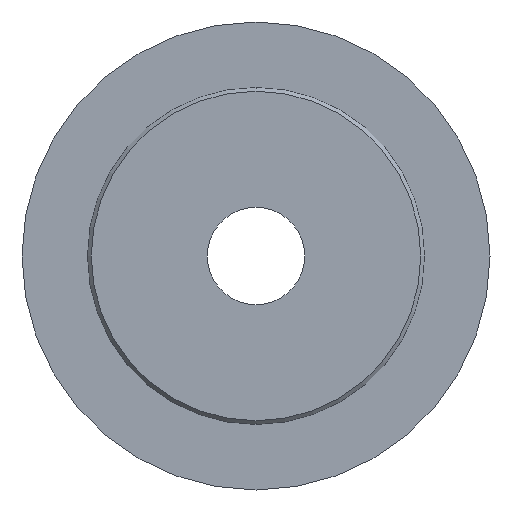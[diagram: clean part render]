
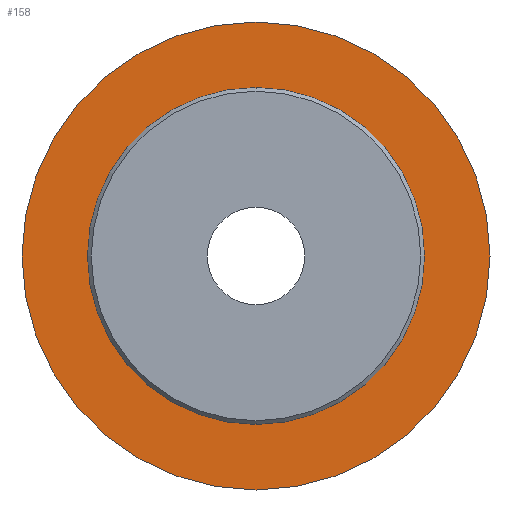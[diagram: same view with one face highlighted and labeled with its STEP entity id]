
A CAD part, front view. The second image highlights one B-rep face of the part: STEP entity #158.
In plain terms, the highlighted planar face has unit normal (0, -1, 0).
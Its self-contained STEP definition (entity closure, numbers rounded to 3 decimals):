
#30 = AXIS2_PLACEMENT_3D ( 'NONE', #319, #385, #126 ) ;
#33 = CARTESIAN_POINT ( 'NONE',  ( 0., 3., 62.5 ) ) ;
#36 = CARTESIAN_POINT ( 'NONE',  ( 0., 3., 0. ) ) ;
#43 = EDGE_CURVE ( 'NONE', #142, #281, #302, .T. ) ;
#46 = EDGE_LOOP ( 'NONE', ( #141, #317 ) ) ;
#50 = VERTEX_POINT ( 'NONE', #128 ) ;
#66 = EDGE_CURVE ( 'NONE', #397, #50, #369, .T. ) ;
#75 = DIRECTION ( 'NONE',  ( 0., 0., -1. ) ) ;
#104 = EDGE_LOOP ( 'NONE', ( #208, #166 ) ) ;
#105 = AXIS2_PLACEMENT_3D ( 'NONE', #182, #409, #255 ) ;
#126 = DIRECTION ( 'NONE',  ( 0., 0., -1. ) ) ;
#128 = CARTESIAN_POINT ( 'NONE',  ( 0., 3., -45. ) ) ;
#140 = CIRCLE ( 'NONE', #389, 45. ) ;
#141 = ORIENTED_EDGE ( 'NONE', *, *, #415, .F. ) ;
#142 = VERTEX_POINT ( 'NONE', #33 ) ;
#144 = DIRECTION ( 'NONE',  ( 0., -1., 0. ) ) ;
#158 = ADVANCED_FACE ( 'NONE', ( #408, #342 ), #363, .F. ) ;
#166 = ORIENTED_EDGE ( 'NONE', *, *, #43, .T. ) ;
#182 = CARTESIAN_POINT ( 'NONE',  ( 0., 3., 0. ) ) ;
#194 = DIRECTION ( 'NONE',  ( 0., 0., 1. ) ) ;
#204 = CARTESIAN_POINT ( 'NONE',  ( 0., 3., -62.5 ) ) ;
#208 = ORIENTED_EDGE ( 'NONE', *, *, #338, .T. ) ;
#229 = CARTESIAN_POINT ( 'NONE',  ( -45., 3., 0. ) ) ;
#255 = DIRECTION ( 'NONE',  ( 0., 0., -1. ) ) ;
#260 = AXIS2_PLACEMENT_3D ( 'NONE', #340, #144, #403 ) ;
#263 = DIRECTION ( 'NONE',  ( 0., 1., 0. ) ) ;
#279 = DIRECTION ( 'NONE',  ( 0., -1., 0. ) ) ;
#281 = VERTEX_POINT ( 'NONE', #204 ) ;
#302 = CIRCLE ( 'NONE', #30, 62.5 ) ;
#309 = AXIS2_PLACEMENT_3D ( 'NONE', #229, #263, #194 ) ;
#317 = ORIENTED_EDGE ( 'NONE', *, *, #66, .F. ) ;
#319 = CARTESIAN_POINT ( 'NONE',  ( 0., 3., 0. ) ) ;
#338 = EDGE_CURVE ( 'NONE', #281, #142, #412, .T. ) ;
#340 = CARTESIAN_POINT ( 'NONE',  ( 0., 3., 0. ) ) ;
#342 = FACE_OUTER_BOUND ( 'NONE', #104, .T. ) ;
#344 = CARTESIAN_POINT ( 'NONE',  ( 0., 3., 45. ) ) ;
#363 = PLANE ( 'NONE',  #309 ) ;
#369 = CIRCLE ( 'NONE', #105, 45. ) ;
#385 = DIRECTION ( 'NONE',  ( 0., -1., 0. ) ) ;
#389 = AXIS2_PLACEMENT_3D ( 'NONE', #36, #279, #75 ) ;
#397 = VERTEX_POINT ( 'NONE', #344 ) ;
#403 = DIRECTION ( 'NONE',  ( 0., 0., -1. ) ) ;
#408 = FACE_BOUND ( 'NONE', #46, .T. ) ;
#409 = DIRECTION ( 'NONE',  ( 0., -1., 0. ) ) ;
#412 = CIRCLE ( 'NONE', #260, 62.5 ) ;
#415 = EDGE_CURVE ( 'NONE', #50, #397, #140, .T. ) ;
